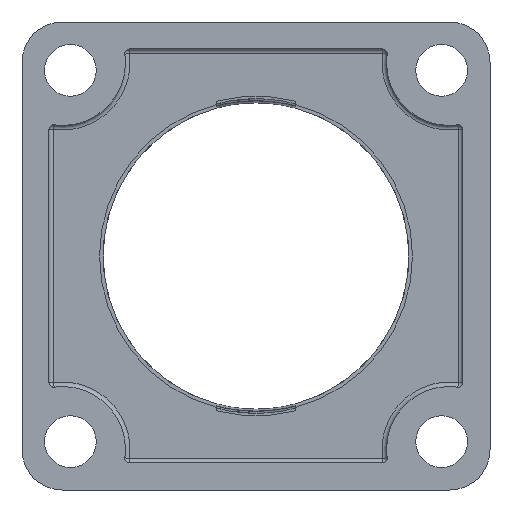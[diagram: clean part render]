
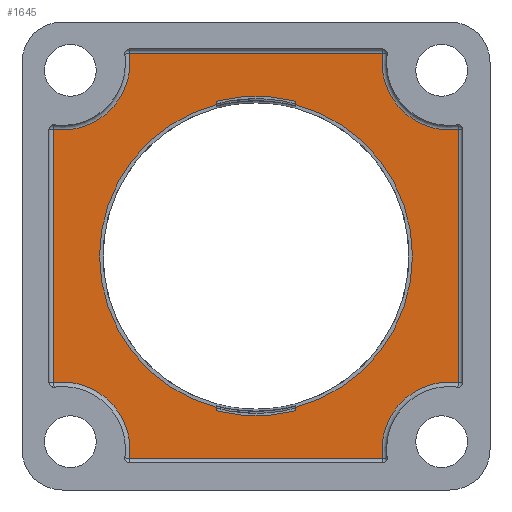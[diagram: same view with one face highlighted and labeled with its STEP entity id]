
A CAD part, front view. The second image highlights one B-rep face of the part: STEP entity #1645.
In plain terms, the highlighted planar face has unit normal (0, -1, 0).
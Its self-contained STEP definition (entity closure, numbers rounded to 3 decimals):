
#51=FACE_BOUND('',#223,.T.);
#118=FACE_OUTER_BOUND('',#222,.T.);
#222=EDGE_LOOP('',(#1119,#1120,#1121,#1122,#1123,#1124,#1125,#1126));
#223=EDGE_LOOP('',(#1127,#1128,#1129,#1130,#1131,#1132,#1133,#1134));
#341=CIRCLE('',#1770,71.);
#344=CIRCLE('',#1775,30.);
#345=CIRCLE('',#1776,30.);
#346=CIRCLE('',#1777,30.);
#347=CIRCLE('',#1778,30.);
#348=CIRCLE('',#1779,69.528);
#349=CIRCLE('',#1780,71.);
#350=CIRCLE('',#1781,69.528);
#461=LINE('',#2563,#576);
#469=LINE('',#2583,#584);
#470=LINE('',#2592,#585);
#471=LINE('',#2596,#586);
#472=LINE('',#2600,#587);
#473=LINE('',#2604,#588);
#474=LINE('',#2609,#589);
#475=LINE('',#2613,#590);
#576=VECTOR('',#1995,10.);
#584=VECTOR('',#2009,10.);
#585=VECTOR('',#2022,10.);
#586=VECTOR('',#2025,10.);
#587=VECTOR('',#2028,10.);
#588=VECTOR('',#2031,10.);
#589=VECTOR('',#2036,10.);
#590=VECTOR('',#2039,10.);
#690=VERTEX_POINT('',#2559);
#692=VERTEX_POINT('',#2562);
#697=VERTEX_POINT('',#2573);
#701=VERTEX_POINT('',#2581);
#702=VERTEX_POINT('',#2590);
#703=VERTEX_POINT('',#2591);
#704=VERTEX_POINT('',#2593);
#705=VERTEX_POINT('',#2595);
#706=VERTEX_POINT('',#2597);
#707=VERTEX_POINT('',#2599);
#708=VERTEX_POINT('',#2601);
#709=VERTEX_POINT('',#2603);
#710=VERTEX_POINT('',#2606);
#711=VERTEX_POINT('',#2608);
#712=VERTEX_POINT('',#2610);
#713=VERTEX_POINT('',#2612);
#848=EDGE_CURVE('',#692,#690,#461,.T.);
#858=EDGE_CURVE('',#697,#701,#469,.T.);
#859=EDGE_CURVE('',#701,#692,#341,.T.);
#862=EDGE_CURVE('',#702,#703,#470,.T.);
#863=EDGE_CURVE('',#704,#702,#344,.T.);
#864=EDGE_CURVE('',#705,#704,#471,.T.);
#865=EDGE_CURVE('',#706,#705,#345,.T.);
#866=EDGE_CURVE('',#707,#706,#472,.T.);
#867=EDGE_CURVE('',#708,#707,#346,.T.);
#868=EDGE_CURVE('',#709,#708,#473,.T.);
#869=EDGE_CURVE('',#703,#709,#347,.T.);
#870=EDGE_CURVE('',#710,#690,#348,.T.);
#871=EDGE_CURVE('',#710,#711,#474,.T.);
#872=EDGE_CURVE('',#711,#712,#349,.T.);
#873=EDGE_CURVE('',#712,#713,#475,.T.);
#874=EDGE_CURVE('',#697,#713,#350,.T.);
#1119=ORIENTED_EDGE('',*,*,#862,.F.);
#1120=ORIENTED_EDGE('',*,*,#863,.F.);
#1121=ORIENTED_EDGE('',*,*,#864,.F.);
#1122=ORIENTED_EDGE('',*,*,#865,.F.);
#1123=ORIENTED_EDGE('',*,*,#866,.F.);
#1124=ORIENTED_EDGE('',*,*,#867,.F.);
#1125=ORIENTED_EDGE('',*,*,#868,.F.);
#1126=ORIENTED_EDGE('',*,*,#869,.F.);
#1127=ORIENTED_EDGE('',*,*,#858,.T.);
#1128=ORIENTED_EDGE('',*,*,#859,.T.);
#1129=ORIENTED_EDGE('',*,*,#848,.T.);
#1130=ORIENTED_EDGE('',*,*,#870,.F.);
#1131=ORIENTED_EDGE('',*,*,#871,.T.);
#1132=ORIENTED_EDGE('',*,*,#872,.T.);
#1133=ORIENTED_EDGE('',*,*,#873,.T.);
#1134=ORIENTED_EDGE('',*,*,#874,.F.);
#1606=PLANE('',#1774);
#1645=ADVANCED_FACE('',(#118,#51),#1606,.F.);
#1770=AXIS2_PLACEMENT_3D('',#2585,#2012,#2013);
#1774=AXIS2_PLACEMENT_3D('',#2589,#2020,#2021);
#1775=AXIS2_PLACEMENT_3D('',#2594,#2023,#2024);
#1776=AXIS2_PLACEMENT_3D('',#2598,#2026,#2027);
#1777=AXIS2_PLACEMENT_3D('',#2602,#2029,#2030);
#1778=AXIS2_PLACEMENT_3D('',#2605,#2032,#2033);
#1779=AXIS2_PLACEMENT_3D('',#2607,#2034,#2035);
#1780=AXIS2_PLACEMENT_3D('',#2611,#2037,#2038);
#1781=AXIS2_PLACEMENT_3D('',#2614,#2040,#2041);
#1995=DIRECTION('',(0.,0.,1.));
#2009=DIRECTION('',(0.,0.,-1.));
#2012=DIRECTION('center_axis',(0.,1.,0.));
#2013=DIRECTION('ref_axis',(0.246,0.,-0.969));
#2020=DIRECTION('center_axis',(0.,1.,0.));
#2021=DIRECTION('ref_axis',(0.,0.,1.));
#2022=DIRECTION('',(1.,0.,0.));
#2023=DIRECTION('center_axis',(0.,-1.,0.));
#2024=DIRECTION('ref_axis',(0.707,0.,-0.707));
#2025=DIRECTION('',(0.,0.,1.));
#2026=DIRECTION('center_axis',(0.,-1.,0.));
#2027=DIRECTION('ref_axis',(0.707,0.,0.707));
#2028=DIRECTION('',(-1.,0.,0.));
#2029=DIRECTION('center_axis',(0.,-1.,0.));
#2030=DIRECTION('ref_axis',(-0.707,0.,0.707));
#2031=DIRECTION('',(0.,0.,-1.));
#2032=DIRECTION('center_axis',(0.,-1.,0.));
#2033=DIRECTION('ref_axis',(-0.707,0.,-0.707));
#2034=DIRECTION('center_axis',(0.,-1.,0.));
#2035=DIRECTION('ref_axis',(1.,0.,0.));
#2036=DIRECTION('',(0.,0.,1.));
#2037=DIRECTION('center_axis',(0.,1.,0.));
#2038=DIRECTION('ref_axis',(0.246,0.,0.969));
#2039=DIRECTION('',(0.,0.,-1.));
#2040=DIRECTION('center_axis',(0.,-1.,0.));
#2041=DIRECTION('ref_axis',(1.,0.,0.));
#2559=CARTESIAN_POINT('',(-17.5,10.,-67.289));
#2562=CARTESIAN_POINT('',(-17.5,10.,-68.81));
#2563=CARTESIAN_POINT('',(-17.5,10.,-27.377));
#2573=CARTESIAN_POINT('',(17.5,10.,-67.289));
#2581=CARTESIAN_POINT('',(17.5,10.,-68.81));
#2583=CARTESIAN_POINT('',(17.5,10.,-34.405));
#2585=CARTESIAN_POINT('Origin',(0.,10.,0.));
#2589=CARTESIAN_POINT('Origin',(0.,10.,0.));
#2590=CARTESIAN_POINT('',(-56.268,10.,90.));
#2591=CARTESIAN_POINT('',(56.268,10.,90.));
#2592=CARTESIAN_POINT('',(-29.325,10.,90.));
#2593=CARTESIAN_POINT('',(-90.,10.,56.268));
#2594=CARTESIAN_POINT('Origin',(-86.,10.,86.));
#2595=CARTESIAN_POINT('',(-90.,10.,-56.268));
#2596=CARTESIAN_POINT('',(-90.,10.,-29.325));
#2597=CARTESIAN_POINT('',(-56.268,10.,-90.));
#2598=CARTESIAN_POINT('Origin',(-86.,10.,-86.));
#2599=CARTESIAN_POINT('',(56.268,10.,-90.));
#2600=CARTESIAN_POINT('',(29.325,10.,-90.));
#2601=CARTESIAN_POINT('',(90.,10.,-56.268));
#2602=CARTESIAN_POINT('Origin',(86.,10.,-86.));
#2603=CARTESIAN_POINT('',(90.,10.,56.268));
#2604=CARTESIAN_POINT('',(90.,10.,29.325));
#2605=CARTESIAN_POINT('Origin',(86.,10.,86.));
#2606=CARTESIAN_POINT('',(-17.5,10.,67.289));
#2607=CARTESIAN_POINT('Origin',(0.,10.,0.));
#2608=CARTESIAN_POINT('',(-17.5,10.,68.81));
#2609=CARTESIAN_POINT('',(-17.5,10.,27.377));
#2610=CARTESIAN_POINT('',(17.5,10.,68.81));
#2611=CARTESIAN_POINT('Origin',(0.,10.,0.));
#2612=CARTESIAN_POINT('',(17.5,10.,67.289));
#2613=CARTESIAN_POINT('',(17.5,10.,34.405));
#2614=CARTESIAN_POINT('Origin',(0.,10.,0.));
